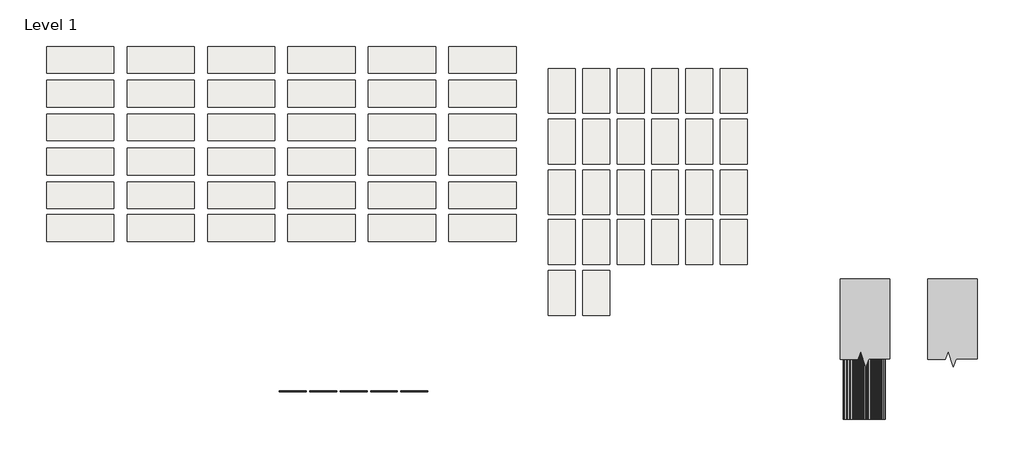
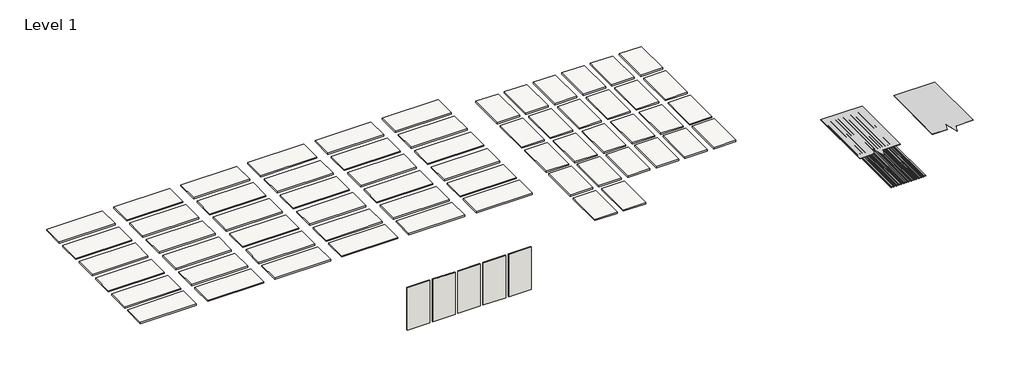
# One storey: 62 slabs, 5 walls, 3 proxies.
"""IFC4 building model written with IfcOpenShell, lengths in millimetres."""

from ifc_helpers import new_model, si_unit, frame, origin, origin_with_axes, place, context, project, spatial, polyline, outline, extrude, transform, mapped, element, save
from components import proxy_f98852e9, section_mask1_section_mask_d04c1bcf

model = new_model("IFC4")

# Units and contexts
model_context = context("Model", 3, world=origin())
ifc_project = project(units=[si_unit("LENGTHUNIT", "METRE", prefix="MILLI")], contexts=[model_context])

# Site, building, storey
site = spatial("IfcSite", under=ifc_project)
building = spatial("IfcBuilding", under=site)
storey = spatial("IfcBuildingStorey", under=building, Name="Level 1", Elevation=0.0)

# Proxies
placement = place(None, origin())
proxy_shape = proxy_f98852e9(model_context)
element("IfcBuildingElementProxy", 1, Name="Metal_Siding_Corrugated-Panel_Steelscape : 34\" Corrugated Panel", ObjectType="Metal_Siding_Corrugated-Panel_Steelscape : 34\" Corrugated Panel", at=placement, inside=storey, context=model_context, shape_type="MappedRepresentation", body=[
    mapped(proxy_shape, transform((8066.2424454, 2573.2522943, 0.0), x_axis=(1.0, 0.0, 0.0), y_axis=(0.0, 1.0, 0.0), z_axis=(0.0, 0.0, 1.0))),
])
section_mask1_section_mask_shape = section_mask1_section_mask_d04c1bcf(model_context)
element("IfcBuildingElementProxy", 2, Name="Section Mask1 : Section Mask", ObjectType="Section Mask1 : Section Mask", at=placement, inside=storey, context=model_context, shape_type="MappedRepresentation", body=[
    mapped(section_mask1_section_mask_shape, transform((1955.8, 0.0, 0.0), x_axis=(1.0, 0.0, 0.0), y_axis=(0.0, 1.0, 0.0), z_axis=(0.0, 0.0, 1.0))),
])
element("IfcBuildingElementProxy", 3, Name="Section Mask2 : Section Mask", ObjectType="Section Mask2 : Section Mask", at=placement, inside=storey, context=model_context, shape_type="MappedRepresentation", body=[
    mapped(section_mask1_section_mask_shape, transform((-31.75, 0.0, 0.0), x_axis=(1.0, 0.0, 0.0), y_axis=(0.0, 1.0, 0.0), z_axis=(0.0, 0.0, 1.0))),
])

# Slabs
element("IfcSlab", 4, ObjectType="Metal Siding - PAINTED - Steelscape", at=placement, inside=storey, context=model_context, shape_type="SweptSolid", body=[
    extrude(outline(polyline([(-9006.1610252, 7398.0362798), (-10530.1610252, 7398.0362798), (-10530.1610252, 8007.6362798), (-9006.1610252, 8007.6362798), (-9006.1610252, 7398.0362798)])), frame((0.0, 0.0, -38.1), z_axis=(0.0, 0.0, 1.0), x_axis=(1.0, 0.0, 0.0)), (0.0, 0.0, 1.0), 38.1),
])
element("IfcSlab", 5, ObjectType="Metal Siding - PAINTED - Steelscape", at=placement, inside=storey, context=model_context, shape_type="SweptSolid", body=[
    extrude(outline(polyline([(-9006.1610252, 6629.6862798), (-10530.1610252, 6629.6862798), (-10530.1610252, 7239.2862798), (-9006.1610252, 7239.2862798), (-9006.1610252, 6629.6862798)])), frame((0.0, 0.0, -38.1), z_axis=(0.0, 0.0, 1.0), x_axis=(1.0, 0.0, 0.0)), (0.0, 0.0, 1.0), 38.1),
])
element("IfcSlab", 6, ObjectType="Metal Siding - PAINTED - Steelscape", at=placement, inside=storey, context=model_context, shape_type="SweptSolid", body=[
    extrude(outline(polyline([(-9006.1610252, 5861.3362798), (-10530.1610252, 5861.3362798), (-10530.1610252, 6470.9362798), (-9006.1610252, 6470.9362798), (-9006.1610252, 5861.3362798)])), frame((0.0, 0.0, -38.1), z_axis=(0.0, 0.0, 1.0), x_axis=(1.0, 0.0, 0.0)), (0.0, 0.0, 1.0), 38.1),
])
element("IfcSlab", 7, ObjectType="Metal Siding - PAINTED - Steelscape", at=placement, inside=storey, context=model_context, shape_type="SweptSolid", body=[
    extrude(outline(polyline([(-9006.1610252, 5086.6362798), (-10530.1610252, 5086.6362798), (-10530.1610252, 5696.2362798), (-9006.1610252, 5696.2362798), (-9006.1610252, 5086.6362798)])), frame((0.0, 0.0, -38.1), z_axis=(0.0, 0.0, 1.0), x_axis=(1.0, 0.0, 0.0)), (0.0, 0.0, 1.0), 38.1),
])
element("IfcSlab", 8, ObjectType="Metal Siding - PAINTED - Steelscape", at=placement, inside=storey, context=model_context, shape_type="SweptSolid", body=[
    extrude(outline(polyline([(-9006.1610252, 4318.2862798), (-10530.1610252, 4318.2862798), (-10530.1610252, 4927.8862798), (-9006.1610252, 4927.8862798), (-9006.1610252, 4318.2862798)])), frame((0.0, 0.0, -38.1), z_axis=(0.0, 0.0, 1.0), x_axis=(1.0, 0.0, 0.0)), (0.0, 0.0, 1.0), 38.1),
])
element("IfcSlab", 9, ObjectType="Metal Siding - PAINTED - Steelscape", at=placement, inside=storey, context=model_context, shape_type="SweptSolid", body=[
    extrude(outline(polyline([(-9006.1610252, 3575.3362798), (-10530.1610252, 3575.3362798), (-10530.1610252, 4184.9362798), (-9006.1610252, 4184.9362798), (-9006.1610252, 3575.3362798)])), frame((0.0, 0.0, -38.1), z_axis=(0.0, 0.0, 1.0), x_axis=(1.0, 0.0, 0.0)), (0.0, 0.0, 1.0), 38.1),
])
element("IfcSlab", 10, ObjectType="Metal Siding - PAINTED - Steelscape", at=placement, inside=storey, context=model_context, shape_type="SweptSolid", body=[
    extrude(outline(polyline([(-7177.3610252, 7398.0362798), (-8701.3610252, 7398.0362798), (-8701.3610252, 8007.6362798), (-7177.3610252, 8007.6362798), (-7177.3610252, 7398.0362798)])), frame((0.0, 0.0, -38.1), z_axis=(0.0, 0.0, 1.0), x_axis=(1.0, 0.0, 0.0)), (0.0, 0.0, 1.0), 38.1),
])
element("IfcSlab", 11, ObjectType="Metal Siding - PAINTED - Steelscape", at=placement, inside=storey, context=model_context, shape_type="SweptSolid", body=[
    extrude(outline(polyline([(-7177.3610252, 6629.6862798), (-8701.3610252, 6629.6862798), (-8701.3610252, 7239.2862798), (-7177.3610252, 7239.2862798), (-7177.3610252, 6629.6862798)])), frame((0.0, 0.0, -38.1), z_axis=(0.0, 0.0, 1.0), x_axis=(1.0, 0.0, 0.0)), (0.0, 0.0, 1.0), 38.1),
])
element("IfcSlab", 12, ObjectType="Metal Siding - PAINTED - Steelscape", at=placement, inside=storey, context=model_context, shape_type="SweptSolid", body=[
    extrude(outline(polyline([(-7177.3610252, 5861.3362798), (-8701.3610252, 5861.3362798), (-8701.3610252, 6470.9362798), (-7177.3610252, 6470.9362798), (-7177.3610252, 5861.3362798)])), frame((0.0, 0.0, -38.1), z_axis=(0.0, 0.0, 1.0), x_axis=(1.0, 0.0, 0.0)), (0.0, 0.0, 1.0), 38.1),
])
element("IfcSlab", 13, ObjectType="Metal Siding - PAINTED - Steelscape", at=placement, inside=storey, context=model_context, shape_type="SweptSolid", body=[
    extrude(outline(polyline([(-7177.3610252, 5086.6362798), (-8701.3610252, 5086.6362798), (-8701.3610252, 5696.2362798), (-7177.3610252, 5696.2362798), (-7177.3610252, 5086.6362798)])), frame((0.0, 0.0, -38.1), z_axis=(0.0, 0.0, 1.0), x_axis=(1.0, 0.0, 0.0)), (0.0, 0.0, 1.0), 38.1),
])
element("IfcSlab", 14, ObjectType="Metal Siding - PAINTED - Steelscape", at=placement, inside=storey, context=model_context, shape_type="SweptSolid", body=[
    extrude(outline(polyline([(-7177.3610252, 4318.2862798), (-8701.3610252, 4318.2862798), (-8701.3610252, 4927.8862798), (-7177.3610252, 4927.8862798), (-7177.3610252, 4318.2862798)])), frame((0.0, 0.0, -38.1), z_axis=(0.0, 0.0, 1.0), x_axis=(1.0, 0.0, 0.0)), (0.0, 0.0, 1.0), 38.1),
])
element("IfcSlab", 15, ObjectType="Metal Siding - PAINTED - Steelscape", at=placement, inside=storey, context=model_context, shape_type="SweptSolid", body=[
    extrude(outline(polyline([(-7177.3610252, 3575.3362798), (-8701.3610252, 3575.3362798), (-8701.3610252, 4184.9362798), (-7177.3610252, 4184.9362798), (-7177.3610252, 3575.3362798)])), frame((0.0, 0.0, -38.1), z_axis=(0.0, 0.0, 1.0), x_axis=(1.0, 0.0, 0.0)), (0.0, 0.0, 1.0), 38.1),
])
element("IfcSlab", 16, ObjectType="Metal Siding - PAINTED - Steelscape", at=placement, inside=storey, context=model_context, shape_type="SweptSolid", body=[
    extrude(outline(polyline([(-5348.5610252, 7398.0362798), (-6872.5610252, 7398.0362798), (-6872.5610252, 8007.6362798), (-5348.5610252, 8007.6362798), (-5348.5610252, 7398.0362798)])), frame((0.0, 0.0, -38.1), z_axis=(0.0, 0.0, 1.0), x_axis=(1.0, 0.0, 0.0)), (0.0, 0.0, 1.0), 38.1),
])
element("IfcSlab", 17, ObjectType="Metal Siding - PAINTED - Steelscape", at=placement, inside=storey, context=model_context, shape_type="SweptSolid", body=[
    extrude(outline(polyline([(-5348.5610252, 6629.6862798), (-6872.5610252, 6629.6862798), (-6872.5610252, 7239.2862798), (-5348.5610252, 7239.2862798), (-5348.5610252, 6629.6862798)])), frame((0.0, 0.0, -38.1), z_axis=(0.0, 0.0, 1.0), x_axis=(1.0, 0.0, 0.0)), (0.0, 0.0, 1.0), 38.1),
])
element("IfcSlab", 18, ObjectType="Metal Siding - PAINTED - Steelscape", at=placement, inside=storey, context=model_context, shape_type="SweptSolid", body=[
    extrude(outline(polyline([(-5348.5610252, 5861.3362798), (-6872.5610252, 5861.3362798), (-6872.5610252, 6470.9362798), (-5348.5610252, 6470.9362798), (-5348.5610252, 5861.3362798)])), frame((0.0, 0.0, -38.1), z_axis=(0.0, 0.0, 1.0), x_axis=(1.0, 0.0, 0.0)), (0.0, 0.0, 1.0), 38.1),
])
element("IfcSlab", 19, ObjectType="Metal Siding - PAINTED - Steelscape", at=placement, inside=storey, context=model_context, shape_type="SweptSolid", body=[
    extrude(outline(polyline([(-5348.5610252, 5086.6362798), (-6872.5610252, 5086.6362798), (-6872.5610252, 5696.2362798), (-5348.5610252, 5696.2362798), (-5348.5610252, 5086.6362798)])), frame((0.0, 0.0, -38.1), z_axis=(0.0, 0.0, 1.0), x_axis=(1.0, 0.0, 0.0)), (0.0, 0.0, 1.0), 38.1),
])
element("IfcSlab", 20, ObjectType="Metal Siding - PAINTED - Steelscape", at=placement, inside=storey, context=model_context, shape_type="SweptSolid", body=[
    extrude(outline(polyline([(-5348.5610252, 4318.2862798), (-6872.5610252, 4318.2862798), (-6872.5610252, 4927.8862798), (-5348.5610252, 4927.8862798), (-5348.5610252, 4318.2862798)])), frame((0.0, 0.0, -38.1), z_axis=(0.0, 0.0, 1.0), x_axis=(1.0, 0.0, 0.0)), (0.0, 0.0, 1.0), 38.1),
])
element("IfcSlab", 21, ObjectType="Metal Siding - PAINTED - Steelscape", at=placement, inside=storey, context=model_context, shape_type="SweptSolid", body=[
    extrude(outline(polyline([(-5348.5610252, 3575.3362798), (-6872.5610252, 3575.3362798), (-6872.5610252, 4184.9362798), (-5348.5610252, 4184.9362798), (-5348.5610252, 3575.3362798)])), frame((0.0, 0.0, -38.1), z_axis=(0.0, 0.0, 1.0), x_axis=(1.0, 0.0, 0.0)), (0.0, 0.0, 1.0), 38.1),
])
element("IfcSlab", 22, ObjectType="Metal Siding - PAINTED - Steelscape", at=placement, inside=storey, context=model_context, shape_type="SweptSolid", body=[
    extrude(outline(polyline([(-3519.7610252, 7398.0362798), (-5043.7610252, 7398.0362798), (-5043.7610252, 8007.6362798), (-3519.7610252, 8007.6362798), (-3519.7610252, 7398.0362798)])), frame((0.0, 0.0, -38.1), z_axis=(0.0, 0.0, 1.0), x_axis=(1.0, 0.0, 0.0)), (0.0, 0.0, 1.0), 38.1),
])
element("IfcSlab", 23, ObjectType="Metal Siding - PAINTED - Steelscape", at=placement, inside=storey, context=model_context, shape_type="SweptSolid", body=[
    extrude(outline(polyline([(-3519.7610252, 6629.6862798), (-5043.7610252, 6629.6862798), (-5043.7610252, 7239.2862798), (-3519.7610252, 7239.2862798), (-3519.7610252, 6629.6862798)])), frame((0.0, 0.0, -38.1), z_axis=(0.0, 0.0, 1.0), x_axis=(1.0, 0.0, 0.0)), (0.0, 0.0, 1.0), 38.1),
])
element("IfcSlab", 24, ObjectType="Metal Siding - PAINTED - Steelscape", at=placement, inside=storey, context=model_context, shape_type="SweptSolid", body=[
    extrude(outline(polyline([(-3519.7610252, 5861.3362798), (-5043.7610252, 5861.3362798), (-5043.7610252, 6470.9362798), (-3519.7610252, 6470.9362798), (-3519.7610252, 5861.3362798)])), frame((0.0, 0.0, -38.1), z_axis=(0.0, 0.0, 1.0), x_axis=(1.0, 0.0, 0.0)), (0.0, 0.0, 1.0), 38.1),
])
element("IfcSlab", 25, ObjectType="Metal Siding - PAINTED - Steelscape", at=placement, inside=storey, context=model_context, shape_type="SweptSolid", body=[
    extrude(outline(polyline([(-3519.7610252, 5086.6362798), (-5043.7610252, 5086.6362798), (-5043.7610252, 5696.2362798), (-3519.7610252, 5696.2362798), (-3519.7610252, 5086.6362798)])), frame((0.0, 0.0, -38.1), z_axis=(0.0, 0.0, 1.0), x_axis=(1.0, 0.0, 0.0)), (0.0, 0.0, 1.0), 38.1),
])
element("IfcSlab", 26, ObjectType="Metal Siding - PAINTED - Steelscape", at=placement, inside=storey, context=model_context, shape_type="SweptSolid", body=[
    extrude(outline(polyline([(-3519.7610252, 4318.2862798), (-5043.7610252, 4318.2862798), (-5043.7610252, 4927.8862798), (-3519.7610252, 4927.8862798), (-3519.7610252, 4318.2862798)])), frame((0.0, 0.0, -38.1), z_axis=(0.0, 0.0, 1.0), x_axis=(1.0, 0.0, 0.0)), (0.0, 0.0, 1.0), 38.1),
])
element("IfcSlab", 27, ObjectType="Metal Siding - PAINTED - Steelscape", at=placement, inside=storey, context=model_context, shape_type="SweptSolid", body=[
    extrude(outline(polyline([(-3519.7610252, 3575.3362798), (-5043.7610252, 3575.3362798), (-5043.7610252, 4184.9362798), (-3519.7610252, 4184.9362798), (-3519.7610252, 3575.3362798)])), frame((0.0, 0.0, -38.1), z_axis=(0.0, 0.0, 1.0), x_axis=(1.0, 0.0, 0.0)), (0.0, 0.0, 1.0), 38.1),
])
element("IfcSlab", 28, ObjectType="Metal Siding - PAINTED - Steelscape", at=placement, inside=storey, context=model_context, shape_type="SweptSolid", body=[
    extrude(outline(polyline([(-1690.9610252, 7398.0362798), (-3214.9610252, 7398.0362798), (-3214.9610252, 8007.6362798), (-1690.9610252, 8007.6362798), (-1690.9610252, 7398.0362798)])), frame((0.0, 0.0, -38.1), z_axis=(0.0, 0.0, 1.0), x_axis=(1.0, 0.0, 0.0)), (0.0, 0.0, 1.0), 38.1),
])
element("IfcSlab", 29, ObjectType="Metal Siding - PAINTED - Steelscape", at=placement, inside=storey, context=model_context, shape_type="SweptSolid", body=[
    extrude(outline(polyline([(-1690.9610252, 6629.6862798), (-3214.9610252, 6629.6862798), (-3214.9610252, 7239.2862798), (-1690.9610252, 7239.2862798), (-1690.9610252, 6629.6862798)])), frame((0.0, 0.0, -38.1), z_axis=(0.0, 0.0, 1.0), x_axis=(1.0, 0.0, 0.0)), (0.0, 0.0, 1.0), 38.1),
])
element("IfcSlab", 30, ObjectType="Metal Siding - PAINTED - Steelscape", at=placement, inside=storey, context=model_context, shape_type="SweptSolid", body=[
    extrude(outline(polyline([(-1690.9610252, 5861.3362798), (-3214.9610252, 5861.3362798), (-3214.9610252, 6470.9362798), (-1690.9610252, 6470.9362798), (-1690.9610252, 5861.3362798)])), frame((0.0, 0.0, -38.1), z_axis=(0.0, 0.0, 1.0), x_axis=(1.0, 0.0, 0.0)), (0.0, 0.0, 1.0), 38.1),
])
element("IfcSlab", 31, ObjectType="Metal Siding - PAINTED - Steelscape", at=placement, inside=storey, context=model_context, shape_type="SweptSolid", body=[
    extrude(outline(polyline([(-1690.9610252, 5086.6362798), (-3214.9610252, 5086.6362798), (-3214.9610252, 5696.2362798), (-1690.9610252, 5696.2362798), (-1690.9610252, 5086.6362798)])), frame((0.0, 0.0, -38.1), z_axis=(0.0, 0.0, 1.0), x_axis=(1.0, 0.0, 0.0)), (0.0, 0.0, 1.0), 38.1),
])
element("IfcSlab", 32, ObjectType="Metal Siding - PAINTED - Steelscape", at=placement, inside=storey, context=model_context, shape_type="SweptSolid", body=[
    extrude(outline(polyline([(-1690.9610252, 4318.2862798), (-3214.9610252, 4318.2862798), (-3214.9610252, 4927.8862798), (-1690.9610252, 4927.8862798), (-1690.9610252, 4318.2862798)])), frame((0.0, 0.0, -38.1), z_axis=(0.0, 0.0, 1.0), x_axis=(1.0, 0.0, 0.0)), (0.0, 0.0, 1.0), 38.1),
])
element("IfcSlab", 33, ObjectType="Metal Siding - PAINTED - Steelscape", at=placement, inside=storey, context=model_context, shape_type="SweptSolid", body=[
    extrude(outline(polyline([(-1690.9610252, 3575.3362798), (-3214.9610252, 3575.3362798), (-3214.9610252, 4184.9362798), (-1690.9610252, 4184.9362798), (-1690.9610252, 3575.3362798)])), frame((0.0, 0.0, -38.1), z_axis=(0.0, 0.0, 1.0), x_axis=(1.0, 0.0, 0.0)), (0.0, 0.0, 1.0), 38.1),
])
element("IfcSlab", 34, ObjectType="Metal Siding - PAINTED - Steelscape", at=placement, inside=storey, context=model_context, shape_type="SweptSolid", body=[
    extrude(outline(polyline([(137.8389748, 7398.0362798), (-1386.1610252, 7398.0362798), (-1386.1610252, 8007.6362798), (137.8389748, 8007.6362798), (137.8389748, 7398.0362798)])), frame((0.0, 0.0, -38.1), z_axis=(0.0, 0.0, 1.0), x_axis=(1.0, 0.0, 0.0)), (0.0, 0.0, 1.0), 38.1),
])
element("IfcSlab", 35, ObjectType="Metal Siding - PAINTED - Steelscape", at=placement, inside=storey, context=model_context, shape_type="SweptSolid", body=[
    extrude(outline(polyline([(137.8389748, 6629.6862798), (-1386.1610252, 6629.6862798), (-1386.1610252, 7239.2862798), (137.8389748, 7239.2862798), (137.8389748, 6629.6862798)])), frame((0.0, 0.0, -38.1), z_axis=(0.0, 0.0, 1.0), x_axis=(1.0, 0.0, 0.0)), (0.0, 0.0, 1.0), 38.1),
])
element("IfcSlab", 36, ObjectType="Metal Siding - PAINTED - Steelscape", at=placement, inside=storey, context=model_context, shape_type="SweptSolid", body=[
    extrude(outline(polyline([(137.8389748, 5861.3362798), (-1386.1610252, 5861.3362798), (-1386.1610252, 6470.9362798), (137.8389748, 6470.9362798), (137.8389748, 5861.3362798)])), frame((0.0, 0.0, -38.1), z_axis=(0.0, 0.0, 1.0), x_axis=(1.0, 0.0, 0.0)), (0.0, 0.0, 1.0), 38.1),
])
element("IfcSlab", 37, ObjectType="Metal Siding - PAINTED - Steelscape", at=placement, inside=storey, context=model_context, shape_type="SweptSolid", body=[
    extrude(outline(polyline([(137.8389748, 5086.6362798), (-1386.1610252, 5086.6362798), (-1386.1610252, 5696.2362798), (137.8389748, 5696.2362798), (137.8389748, 5086.6362798)])), frame((0.0, 0.0, -38.1), z_axis=(0.0, 0.0, 1.0), x_axis=(1.0, 0.0, 0.0)), (0.0, 0.0, 1.0), 38.1),
])
element("IfcSlab", 38, ObjectType="Metal Siding - PAINTED - Steelscape", at=placement, inside=storey, context=model_context, shape_type="SweptSolid", body=[
    extrude(outline(polyline([(137.8389748, 4318.2862798), (-1386.1610252, 4318.2862798), (-1386.1610252, 4927.8862798), (137.8389748, 4927.8862798), (137.8389748, 4318.2862798)])), frame((0.0, 0.0, -38.1), z_axis=(0.0, 0.0, 1.0), x_axis=(1.0, 0.0, 0.0)), (0.0, 0.0, 1.0), 38.1),
])
element("IfcSlab", 39, ObjectType="Metal Siding - PAINTED - Steelscape", at=placement, inside=storey, context=model_context, shape_type="SweptSolid", body=[
    extrude(outline(polyline([(137.8389748, 3575.3362798), (-1386.1610252, 3575.3362798), (-1386.1610252, 4184.9362798), (137.8389748, 4184.9362798), (137.8389748, 3575.3362798)])), frame((0.0, 0.0, -38.1), z_axis=(0.0, 0.0, 1.0), x_axis=(1.0, 0.0, 0.0)), (0.0, 0.0, 1.0), 38.1),
])
element("IfcSlab", 40, ObjectType="AEP Span Material Sample", at=placement, inside=storey, context=model_context, shape_type="SweptSolid", body=[
    extrude(outline(polyline([(1485.5495194, 6492.0895229), (875.9495194, 6492.0895229), (875.9495194, 7508.0895229), (1485.5495194, 7508.0895229), (1485.5495194, 6492.0895229)])), frame((0.0, 0.0, -38.1), z_axis=(0.0, 0.0, 1.0), x_axis=(1.0, 0.0, 0.0)), (0.0, 0.0, 1.0), 38.1),
])
element("IfcSlab", 41, ObjectType="AEP Span Material Sample", at=placement, inside=storey, context=model_context, shape_type="SweptSolid", body=[
    extrude(outline(polyline([(2266.5995194, 6492.0895229), (1656.9995194, 6492.0895229), (1656.9995194, 7508.0895229), (2266.5995194, 7508.0895229), (2266.5995194, 6492.0895229)])), frame((0.0, 0.0, -38.1), z_axis=(0.0, 0.0, 1.0), x_axis=(1.0, 0.0, 0.0)), (0.0, 0.0, 1.0), 38.1),
])
element("IfcSlab", 42, ObjectType="AEP Span Material Sample", at=placement, inside=storey, context=model_context, shape_type="SweptSolid", body=[
    extrude(outline(polyline([(3047.6495194, 6492.0895229), (2438.0495194, 6492.0895229), (2438.0495194, 7508.0895229), (3047.6495194, 7508.0895229), (3047.6495194, 6492.0895229)])), frame((0.0, 0.0, -38.1), z_axis=(0.0, 0.0, 1.0), x_axis=(1.0, 0.0, 0.0)), (0.0, 0.0, 1.0), 38.1),
])
element("IfcSlab", 43, ObjectType="AEP Span Material Sample", at=placement, inside=storey, context=model_context, shape_type="SweptSolid", body=[
    extrude(outline(polyline([(3828.6995194, 6492.0895229), (3219.0995194, 6492.0895229), (3219.0995194, 7508.0895229), (3828.6995194, 7508.0895229), (3828.6995194, 6492.0895229)])), frame((0.0, 0.0, -38.1), z_axis=(0.0, 0.0, 1.0), x_axis=(1.0, 0.0, 0.0)), (0.0, 0.0, 1.0), 38.1),
])
element("IfcSlab", 44, ObjectType="AEP Span Material Sample", at=placement, inside=storey, context=model_context, shape_type="SweptSolid", body=[
    extrude(outline(polyline([(4609.7495194, 6492.0895229), (4000.1495194, 6492.0895229), (4000.1495194, 7508.0895229), (4609.7495194, 7508.0895229), (4609.7495194, 6492.0895229)])), frame((0.0, 0.0, -38.1), z_axis=(0.0, 0.0, 1.0), x_axis=(1.0, 0.0, 0.0)), (0.0, 0.0, 1.0), 38.1),
])
element("IfcSlab", 45, ObjectType="AEP Span Material Sample", at=placement, inside=storey, context=model_context, shape_type="SweptSolid", body=[
    extrude(outline(polyline([(5390.7995194, 6492.0895229), (4781.1995194, 6492.0895229), (4781.1995194, 7508.0895229), (5390.7995194, 7508.0895229), (5390.7995194, 6492.0895229)])), frame((0.0, 0.0, -38.1), z_axis=(0.0, 0.0, 1.0), x_axis=(1.0, 0.0, 0.0)), (0.0, 0.0, 1.0), 38.1),
])
element("IfcSlab", 46, ObjectType="AEP Span Material Sample", at=placement, inside=storey, context=model_context, shape_type="SweptSolid", body=[
    extrude(outline(polyline([(1485.5495194, 5336.3895229), (875.9495194, 5336.3895229), (875.9495194, 6352.3895229), (1485.5495194, 6352.3895229), (1485.5495194, 5336.3895229)])), frame((0.0, 0.0, -38.1), z_axis=(0.0, 0.0, 1.0), x_axis=(1.0, 0.0, 0.0)), (0.0, 0.0, 1.0), 38.1),
])
element("IfcSlab", 47, ObjectType="AEP Span Material Sample", at=placement, inside=storey, context=model_context, shape_type="SweptSolid", body=[
    extrude(outline(polyline([(2266.5995194, 5336.3895229), (1656.9995194, 5336.3895229), (1656.9995194, 6352.3895229), (2266.5995194, 6352.3895229), (2266.5995194, 5336.3895229)])), frame((0.0, 0.0, -38.1), z_axis=(0.0, 0.0, 1.0), x_axis=(1.0, 0.0, 0.0)), (0.0, 0.0, 1.0), 38.1),
])
element("IfcSlab", 48, ObjectType="AEP Span Material Sample", at=placement, inside=storey, context=model_context, shape_type="SweptSolid", body=[
    extrude(outline(polyline([(3047.6495194, 5336.3895229), (2438.0495194, 5336.3895229), (2438.0495194, 6352.3895229), (3047.6495194, 6352.3895229), (3047.6495194, 5336.3895229)])), frame((0.0, 0.0, -38.1), z_axis=(0.0, 0.0, 1.0), x_axis=(1.0, 0.0, 0.0)), (0.0, 0.0, 1.0), 38.1),
])
element("IfcSlab", 49, ObjectType="AEP Span Material Sample", at=placement, inside=storey, context=model_context, shape_type="SweptSolid", body=[
    extrude(outline(polyline([(3828.6995194, 5336.3895229), (3219.0995194, 5336.3895229), (3219.0995194, 6352.3895229), (3828.6995194, 6352.3895229), (3828.6995194, 5336.3895229)])), frame((0.0, 0.0, -38.1), z_axis=(0.0, 0.0, 1.0), x_axis=(1.0, 0.0, 0.0)), (0.0, 0.0, 1.0), 38.1),
])
element("IfcSlab", 50, ObjectType="AEP Span Material Sample", at=placement, inside=storey, context=model_context, shape_type="SweptSolid", body=[
    extrude(outline(polyline([(4609.7495194, 5336.3895229), (4000.1495194, 5336.3895229), (4000.1495194, 6352.3895229), (4609.7495194, 6352.3895229), (4609.7495194, 5336.3895229)])), frame((0.0, 0.0, -38.1), z_axis=(0.0, 0.0, 1.0), x_axis=(1.0, 0.0, 0.0)), (0.0, 0.0, 1.0), 38.1),
])
element("IfcSlab", 51, ObjectType="AEP Span Material Sample", at=placement, inside=storey, context=model_context, shape_type="SweptSolid", body=[
    extrude(outline(polyline([(5390.7995194, 5336.3895229), (4781.1995194, 5336.3895229), (4781.1995194, 6352.3895229), (5390.7995194, 6352.3895229), (5390.7995194, 5336.3895229)])), frame((0.0, 0.0, -38.1), z_axis=(0.0, 0.0, 1.0), x_axis=(1.0, 0.0, 0.0)), (0.0, 0.0, 1.0), 38.1),
])
element("IfcSlab", 52, ObjectType="AEP Span Material Sample", at=placement, inside=storey, context=model_context, shape_type="SweptSolid", body=[
    extrude(outline(polyline([(1485.5495194, 4180.6895229), (875.9495194, 4180.6895229), (875.9495194, 5196.6895229), (1485.5495194, 5196.6895229), (1485.5495194, 4180.6895229)])), frame((0.0, 0.0, -38.1), z_axis=(0.0, 0.0, 1.0), x_axis=(1.0, 0.0, 0.0)), (0.0, 0.0, 1.0), 38.1),
])
element("IfcSlab", 53, ObjectType="AEP Span Material Sample", at=placement, inside=storey, context=model_context, shape_type="SweptSolid", body=[
    extrude(outline(polyline([(2266.5995194, 4180.6895229), (1656.9995194, 4180.6895229), (1656.9995194, 5196.6895229), (2266.5995194, 5196.6895229), (2266.5995194, 4180.6895229)])), frame((0.0, 0.0, -38.1), z_axis=(0.0, 0.0, 1.0), x_axis=(1.0, 0.0, 0.0)), (0.0, 0.0, 1.0), 38.1),
])
element("IfcSlab", 54, ObjectType="AEP Span Material Sample", at=placement, inside=storey, context=model_context, shape_type="SweptSolid", body=[
    extrude(outline(polyline([(3047.6495194, 4180.6895229), (2438.0495194, 4180.6895229), (2438.0495194, 5196.6895229), (3047.6495194, 5196.6895229), (3047.6495194, 4180.6895229)])), frame((0.0, 0.0, -38.1), z_axis=(0.0, 0.0, 1.0), x_axis=(1.0, 0.0, 0.0)), (0.0, 0.0, 1.0), 38.1),
])
element("IfcSlab", 55, ObjectType="AEP Span Material Sample", at=placement, inside=storey, context=model_context, shape_type="SweptSolid", body=[
    extrude(outline(polyline([(3828.6995194, 4180.6895229), (3219.0995194, 4180.6895229), (3219.0995194, 5196.6895229), (3828.6995194, 5196.6895229), (3828.6995194, 4180.6895229)])), frame((0.0, 0.0, -38.1), z_axis=(0.0, 0.0, 1.0), x_axis=(1.0, 0.0, 0.0)), (0.0, 0.0, 1.0), 38.1),
])
element("IfcSlab", 56, ObjectType="AEP Span Material Sample", at=placement, inside=storey, context=model_context, shape_type="SweptSolid", body=[
    extrude(outline(polyline([(4609.7495194, 4180.6895229), (4000.1495194, 4180.6895229), (4000.1495194, 5196.6895229), (4609.7495194, 5196.6895229), (4609.7495194, 4180.6895229)])), frame((0.0, 0.0, -38.1), z_axis=(0.0, 0.0, 1.0), x_axis=(1.0, 0.0, 0.0)), (0.0, 0.0, 1.0), 38.1),
])
element("IfcSlab", 57, ObjectType="AEP Span Material Sample", at=placement, inside=storey, context=model_context, shape_type="SweptSolid", body=[
    extrude(outline(polyline([(5390.7995194, 4180.6895229), (4781.1995194, 4180.6895229), (4781.1995194, 5196.6895229), (5390.7995194, 5196.6895229), (5390.7995194, 4180.6895229)])), frame((0.0, 0.0, -38.1), z_axis=(0.0, 0.0, 1.0), x_axis=(1.0, 0.0, 0.0)), (0.0, 0.0, 1.0), 38.1),
])
element("IfcSlab", 58, ObjectType="AEP Span Material Sample", at=placement, inside=storey, context=model_context, shape_type="SweptSolid", body=[
    extrude(outline(polyline([(1485.5495194, 3050.3895229), (875.9495194, 3050.3895229), (875.9495194, 4066.3895229), (1485.5495194, 4066.3895229), (1485.5495194, 3050.3895229)])), frame((0.0, 0.0, -38.1), z_axis=(0.0, 0.0, 1.0), x_axis=(1.0, 0.0, 0.0)), (0.0, 0.0, 1.0), 38.1),
])
element("IfcSlab", 59, ObjectType="AEP Span Material Sample", at=placement, inside=storey, context=model_context, shape_type="SweptSolid", body=[
    extrude(outline(polyline([(2266.5995194, 3050.3895229), (1656.9995194, 3050.3895229), (1656.9995194, 4066.3895229), (2266.5995194, 4066.3895229), (2266.5995194, 3050.3895229)])), frame((0.0, 0.0, -38.1), z_axis=(0.0, 0.0, 1.0), x_axis=(1.0, 0.0, 0.0)), (0.0, 0.0, 1.0), 38.1),
])
element("IfcSlab", 60, ObjectType="AEP Span Material Sample", at=placement, inside=storey, context=model_context, shape_type="SweptSolid", body=[
    extrude(outline(polyline([(3047.6495194, 3050.3895229), (2438.0495194, 3050.3895229), (2438.0495194, 4066.3895229), (3047.6495194, 4066.3895229), (3047.6495194, 3050.3895229)])), frame((0.0, 0.0, -38.1), z_axis=(0.0, 0.0, 1.0), x_axis=(1.0, 0.0, 0.0)), (0.0, 0.0, 1.0), 38.1),
])
element("IfcSlab", 61, ObjectType="AEP Span Material Sample", at=placement, inside=storey, context=model_context, shape_type="SweptSolid", body=[
    extrude(outline(polyline([(3828.6995194, 3050.3895229), (3219.0995194, 3050.3895229), (3219.0995194, 4066.3895229), (3828.6995194, 4066.3895229), (3828.6995194, 3050.3895229)])), frame((0.0, 0.0, -38.1), z_axis=(0.0, 0.0, 1.0), x_axis=(1.0, 0.0, 0.0)), (0.0, 0.0, 1.0), 38.1),
])
element("IfcSlab", 62, ObjectType="AEP Span Material Sample", at=placement, inside=storey, context=model_context, shape_type="SweptSolid", body=[
    extrude(outline(polyline([(4609.7495194, 3050.3895229), (4000.1495194, 3050.3895229), (4000.1495194, 4066.3895229), (4609.7495194, 4066.3895229), (4609.7495194, 3050.3895229)])), frame((0.0, 0.0, -38.1), z_axis=(0.0, 0.0, 1.0), x_axis=(1.0, 0.0, 0.0)), (0.0, 0.0, 1.0), 38.1),
])
element("IfcSlab", 63, ObjectType="AEP Span Material Sample", at=placement, inside=storey, context=model_context, shape_type="SweptSolid", body=[
    extrude(outline(polyline([(5390.7995194, 3050.3895229), (4781.1995194, 3050.3895229), (4781.1995194, 4066.3895229), (5390.7995194, 4066.3895229), (5390.7995194, 3050.3895229)])), frame((0.0, 0.0, -38.1), z_axis=(0.0, 0.0, 1.0), x_axis=(1.0, 0.0, 0.0)), (0.0, 0.0, 1.0), 38.1),
])
element("IfcSlab", 64, ObjectType="AEP Span Material Sample", at=placement, inside=storey, context=model_context, shape_type="SweptSolid", body=[
    extrude(outline(polyline([(1485.5495194, 1894.6895229), (875.9495194, 1894.6895229), (875.9495194, 2910.6895229), (1485.5495194, 2910.6895229), (1485.5495194, 1894.6895229)])), frame((0.0, 0.0, -38.1), z_axis=(0.0, 0.0, 1.0), x_axis=(1.0, 0.0, 0.0)), (0.0, 0.0, 1.0), 38.1),
])
element("IfcSlab", 65, ObjectType="AEP Span Material Sample", at=placement, inside=storey, context=model_context, shape_type="SweptSolid", body=[
    extrude(outline(polyline([(2266.5995194, 1894.6895229), (1656.9995194, 1894.6895229), (1656.9995194, 2910.6895229), (2266.5995194, 2910.6895229), (2266.5995194, 1894.6895229)])), frame((0.0, 0.0, -38.1), z_axis=(0.0, 0.0, 1.0), x_axis=(1.0, 0.0, 0.0)), (0.0, 0.0, 1.0), 38.1),
])

# Walls
element("IfcWall", 66, ObjectType="34\" Corrugated Panel", at=placement, inside=storey, context=model_context, shape_type="SweptSolid", body=[
    extrude(outline(polyline([(-3937.6388046, 149.1397943), (-4547.2388046, 149.1397943), (-4547.2388046, 171.3647943), (-3937.6388046, 171.3647943), (-3937.6388046, 149.1397943)])), origin_with_axes(), (0.0, 0.0, 1.0), 1219.2),
])
element("IfcWall", 67, ObjectType="34\" Corrugated Panel", at=placement, inside=storey, context=model_context, shape_type="SweptSolid", body=[
    extrude(outline(polyline([(-3247.4731796, 149.1397943), (-3857.0731796, 149.1397943), (-3857.0731796, 171.3647943), (-3247.4731796, 171.3647943), (-3247.4731796, 149.1397943)])), origin_with_axes(), (0.0, 0.0, 1.0), 1219.2),
])
element("IfcWall", 68, ObjectType="34\" Corrugated Panel", at=placement, inside=storey, context=model_context, shape_type="SweptSolid", body=[
    extrude(outline(polyline([(-2557.3075546, 149.1397943), (-3166.9075546, 149.1397943), (-3166.9075546, 171.3647943), (-2557.3075546, 171.3647943), (-2557.3075546, 149.1397943)])), origin_with_axes(), (0.0, 0.0, 1.0), 1219.2),
])
element("IfcWall", 69, ObjectType="34\" Corrugated Panel", at=placement, inside=storey, context=model_context, shape_type="SweptSolid", body=[
    extrude(outline(polyline([(-1867.1419296, 149.1397943), (-2476.7419296, 149.1397943), (-2476.7419296, 171.3647943), (-1867.1419296, 171.3647943), (-1867.1419296, 149.1397943)])), origin_with_axes(), (0.0, 0.0, 1.0), 1219.2),
])
element("IfcWall", 70, ObjectType="34\" Corrugated Panel", at=placement, inside=storey, context=model_context, shape_type="SweptSolid", body=[
    extrude(outline(polyline([(-4627.8044296, 149.1397943), (-5237.4044296, 149.1397943), (-5237.4044296, 171.3647943), (-4627.8044296, 171.3647943), (-4627.8044296, 149.1397943)])), origin_with_axes(), (0.0, 0.0, 1.0), 1219.2),
])

save(model, "model.ifc")
